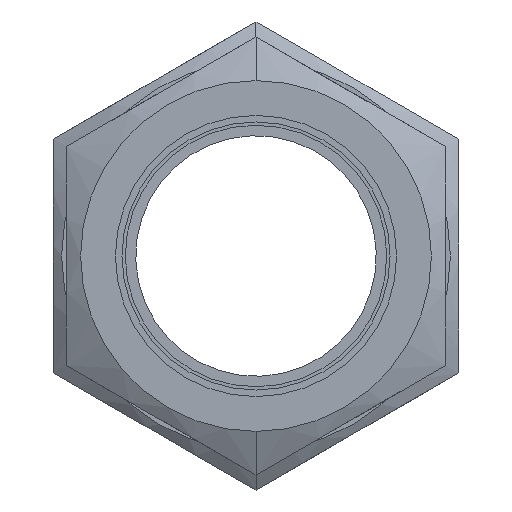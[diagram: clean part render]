
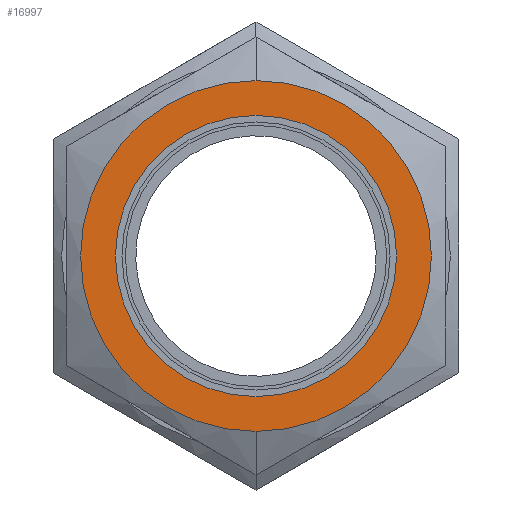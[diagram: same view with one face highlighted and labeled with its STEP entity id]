
A CAD part, left-side view. The second image highlights one B-rep face of the part: STEP entity #16997.
In plain terms, the highlighted planar face has unit normal (-1, 0, 0).
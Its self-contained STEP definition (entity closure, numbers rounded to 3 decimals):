
#3026 = CARTESIAN_POINT ( 'NONE',  ( -815.341, 0., 71.953 ) ) ;
#3027 = DIRECTION ( 'NONE',  ( 1., 0., 0. ) ) ;
#3028 = DIRECTION ( 'NONE',  ( 0., 0., 1. ) ) ;
#4092 = CARTESIAN_POINT ( 'NONE',  ( -815.341, 0., 71.953 ) ) ;
#4093 = DIRECTION ( 'NONE',  ( 1., 0., 0. ) ) ;
#4094 = DIRECTION ( 'NONE',  ( 0., 0., 1. ) ) ;
#4095 = CARTESIAN_POINT ( 'NONE',  ( -815.341, 0., 71.953 ) ) ;
#4096 = DIRECTION ( 'NONE',  ( 1., 0., 0. ) ) ;
#4097 = DIRECTION ( 'NONE',  ( 0., 0., 1. ) ) ;
#4606 = CARTESIAN_POINT ( 'NONE',  ( -815.341, 0., 71.953 ) ) ;
#4607 = DIRECTION ( 'NONE',  ( 1., 0., 0. ) ) ;
#4608 = DIRECTION ( 'NONE',  ( 0., 0., 1. ) ) ;
#5347 = EDGE_LOOP ( 'NONE', ( #17874, #17873 ) ) ;
#5366 = EDGE_LOOP ( 'NONE', ( #17876, #17875 ) ) ;
#5386 = VERTEX_POINT ( 'NONE', #12334 ) ;
#5400 = VERTEX_POINT ( 'NONE', #5535 ) ;
#5405 = VERTEX_POINT ( 'NONE', #5540 ) ;
#5409 = VERTEX_POINT ( 'NONE', #5544 ) ;
#5535 = CARTESIAN_POINT ( 'NONE',  ( -815.341, 0., 58.515 ) ) ;
#5540 = CARTESIAN_POINT ( 'NONE',  ( -815.341, 0., 55.182 ) ) ;
#5544 = CARTESIAN_POINT ( 'NONE',  ( -815.341, 0., 88.724 ) ) ;
#12334 = CARTESIAN_POINT ( 'NONE',  ( -815.341, 0., 85.39 ) ) ;
#13800 = CARTESIAN_POINT ( 'NONE',  ( -815.341, -13.438, 71.953 ) ) ;
#13809 = FACE_OUTER_BOUND ( 'NONE', #5347, .T. ) ;
#13813 = FACE_BOUND ( 'NONE', #5366, .T. ) ;
#13814 = PLANE ( 'NONE',  #16762 ) ;
#13816 = DIRECTION ( 'NONE',  ( 1., 0., 0. ) ) ;
#13817 = DIRECTION ( 'NONE',  ( 0., 0., 1. ) ) ;
#16053 = CIRCLE ( 'NONE', #16237, 13.438 ) ;
#16203 = CIRCLE ( 'NONE', #16320, 13.438 ) ;
#16214 = CIRCLE ( 'NONE', #16453, 16.771 ) ;
#16237 = AXIS2_PLACEMENT_3D ( 'NONE', #4606, #4607, #4608 ) ;
#16320 = AXIS2_PLACEMENT_3D ( 'NONE', #4095, #4096, #4097 ) ;
#16435 = CIRCLE ( 'NONE', #16448, 16.771 ) ;
#16448 = AXIS2_PLACEMENT_3D ( 'NONE', #3026, #3027, #3028 ) ;
#16453 = AXIS2_PLACEMENT_3D ( 'NONE', #4092, #4093, #4094 ) ;
#16762 = AXIS2_PLACEMENT_3D ( 'NONE', #13800, #13816, #13817 ) ;
#16997 = ADVANCED_FACE ( 'NONE', ( #13813, #13809 ), #13814, .F. ) ;
#17161 = EDGE_CURVE ( 'NONE', #5405, #5409, #16214, .T. ) ;
#17162 = EDGE_CURVE ( 'NONE', #5386, #5400, #16203, .T. ) ;
#17200 = EDGE_CURVE ( 'NONE', #5400, #5386, #16053, .T. ) ;
#17267 = EDGE_CURVE ( 'NONE', #5409, #5405, #16435, .T. ) ;
#17873 = ORIENTED_EDGE ( 'NONE', *, *, #17161, .F. ) ;
#17874 = ORIENTED_EDGE ( 'NONE', *, *, #17267, .F. ) ;
#17875 = ORIENTED_EDGE ( 'NONE', *, *, #17200, .T. ) ;
#17876 = ORIENTED_EDGE ( 'NONE', *, *, #17162, .T. ) ;
